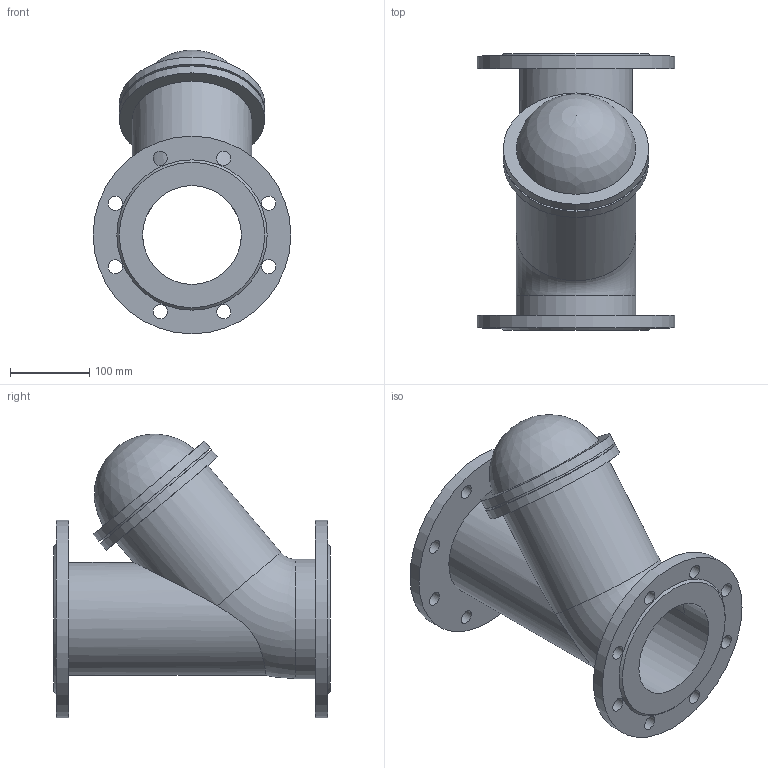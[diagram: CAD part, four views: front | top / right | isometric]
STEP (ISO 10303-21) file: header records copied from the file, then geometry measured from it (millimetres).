
FILE_DESCRIPTION(('STEP AP203'), '1');
FILE_NAME('Êëàïàí îáðàòíûé øàðîâîé ôëàíöåâûé 012F DN125', '', ('UNSPECIFIED'), ('UNSPECIFIED'), 'ASCON STEP Converter 1.6', 'ASCON Math Kernel', '');
FILE_SCHEMA(('CONFIG_CONTROL_DESIGN'));
Length unit declared in the file: millimetre
Bounding box: 250 x 350 x 358.8 mm (x, y, z)
Volume: 4477646.3 mm3; surface area: 606402.6 mm2
Topology: 1 solids, 1 shells, 44 faces, 105 edges, 70 vertices
Faces by surface type: cylinder 27, plane 12, torus 2, cone 2, sphere 1
Full cylindrical faces by diameter (mm): 18 x16, 125 x2, 143 x1, 151 x2, 174 x1, 184 x2, 250 x2
Entity records: 1979 total; most frequent: CARTESIAN_POINT 587, DIRECTION 216, ORIENTED_EDGE 146, EDGE_LOOP 116, AXIS2_PLACEMENT_3D 108, EDGE_CURVE 73, VERTEX_POINT 69, CIRCLE 63
